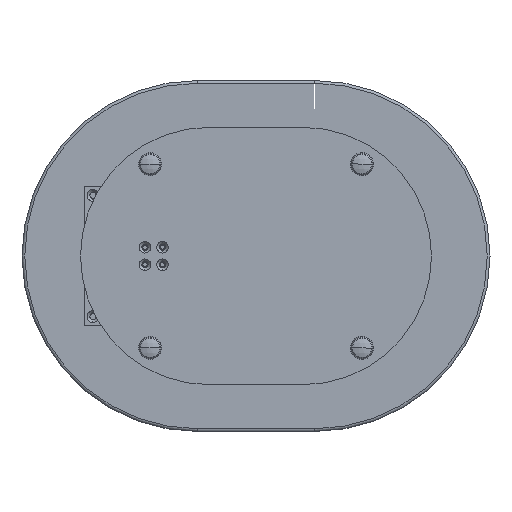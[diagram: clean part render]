
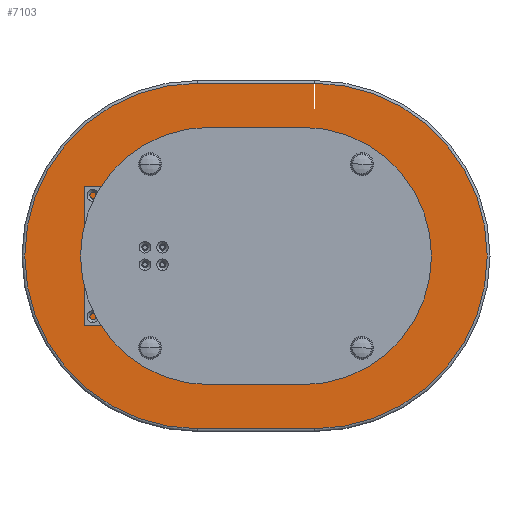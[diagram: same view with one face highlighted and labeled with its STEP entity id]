
A CAD part, front view. The second image highlights one B-rep face of the part: STEP entity #7103.
In plain terms, the highlighted planar face has unit normal (0, -1, 0).
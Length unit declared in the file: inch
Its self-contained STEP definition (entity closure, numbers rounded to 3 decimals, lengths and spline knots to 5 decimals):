
#409 = EDGE_LOOP ( 'NONE', ( #3704, #3511, #3095, #11923 ) ) ;
#651 = EDGE_CURVE ( 'NONE', #6177, #9329, #6921, .T. ) ;
#727 = VERTEX_POINT ( 'NONE', #9091 ) ;
#1341 = CARTESIAN_POINT ( 'NONE',  ( -2.5, 0., -7.38189 ) ) ;
#1633 = EDGE_CURVE ( 'NONE', #9329, #727, #4126, .T. ) ;
#1830 = CARTESIAN_POINT ( 'NONE',  ( 2.5, 0., -7.38189 ) ) ;
#1949 = VECTOR ( 'NONE', #3192, 39.37008 ) ;
#3050 = AXIS2_PLACEMENT_3D ( 'NONE', #7576, #11464, #10521 ) ;
#3095 = ORIENTED_EDGE ( 'NONE', *, *, #4220, .F. ) ;
#3192 = DIRECTION ( 'NONE',  ( -1., 0., 0. ) ) ;
#3511 = ORIENTED_EDGE ( 'NONE', *, *, #6230, .F. ) ;
#3704 = ORIENTED_EDGE ( 'NONE', *, *, #651, .F. ) ;
#4126 = LINE ( 'NONE', #6355, #7491 ) ;
#4220 = EDGE_CURVE ( 'NONE', #727, #9955, #5298, .T. ) ;
#4389 = DIRECTION ( 'NONE',  ( 1., 0., 0. ) ) ;
#5298 = CIRCLE ( 'NONE', #8957, 7.38189 ) ;
#5585 = AXIS2_PLACEMENT_3D ( 'NONE', #11327, #10624, #7558 ) ;
#5902 = CARTESIAN_POINT ( 'NONE',  ( -2.5, 0., 7.38189 ) ) ;
#5910 = DIRECTION ( 'NONE',  ( 0., 0., 1. ) ) ;
#6177 = VERTEX_POINT ( 'NONE', #1341 ) ;
#6230 = EDGE_CURVE ( 'NONE', #9955, #6177, #11919, .T. ) ;
#6355 = CARTESIAN_POINT ( 'NONE',  ( -2.5, 0., 7.38189 ) ) ;
#6921 = CIRCLE ( 'NONE', #3050, 7.38189 ) ;
#7001 = DIRECTION ( 'NONE',  ( 0., 1., 0. ) ) ;
#7103 = ADVANCED_FACE ( 'NONE', ( #8393 ), #7443, .F. ) ;
#7443 = PLANE ( 'NONE',  #5585 ) ;
#7491 = VECTOR ( 'NONE', #4389, 39.37008 ) ;
#7558 = DIRECTION ( 'NONE',  ( 0., 0., 1. ) ) ;
#7576 = CARTESIAN_POINT ( 'NONE',  ( -2.5, 0., 0. ) ) ;
#8393 = FACE_OUTER_BOUND ( 'NONE', #409, .T. ) ;
#8957 = AXIS2_PLACEMENT_3D ( 'NONE', #10953, #7001, #5910 ) ;
#9043 = CARTESIAN_POINT ( 'NONE',  ( 2.5, 0., -7.38189 ) ) ;
#9091 = CARTESIAN_POINT ( 'NONE',  ( 2.5, 0., 7.38189 ) ) ;
#9329 = VERTEX_POINT ( 'NONE', #5902 ) ;
#9955 = VERTEX_POINT ( 'NONE', #1830 ) ;
#10521 = DIRECTION ( 'NONE',  ( 0., 0., 1. ) ) ;
#10624 = DIRECTION ( 'NONE',  ( 0., 1., 0. ) ) ;
#10953 = CARTESIAN_POINT ( 'NONE',  ( 2.5, 0., 0. ) ) ;
#11327 = CARTESIAN_POINT ( 'NONE',  ( -2.5, 0., 0. ) ) ;
#11464 = DIRECTION ( 'NONE',  ( 0., 1., 0. ) ) ;
#11919 = LINE ( 'NONE', #9043, #1949 ) ;
#11923 = ORIENTED_EDGE ( 'NONE', *, *, #1633, .F. ) ;
